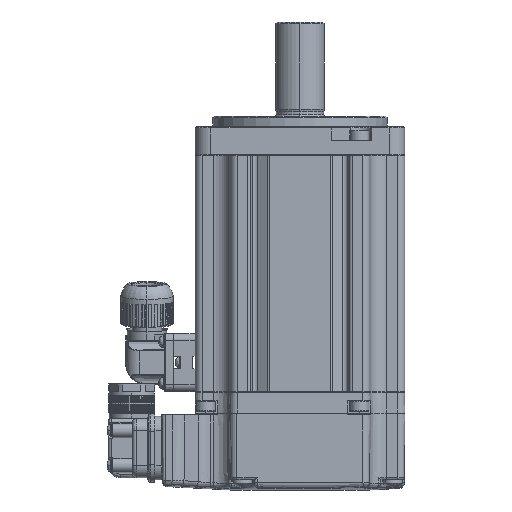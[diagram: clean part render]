
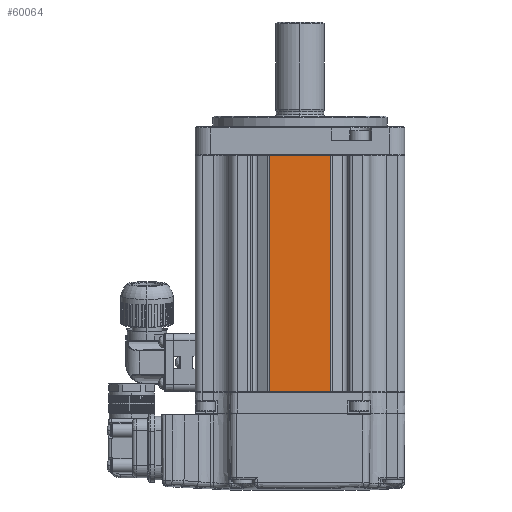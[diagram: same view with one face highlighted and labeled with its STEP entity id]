
A CAD part, front view. The second image highlights one B-rep face of the part: STEP entity #60064.
In plain terms, the highlighted planar face has unit normal (0, -1, 0).
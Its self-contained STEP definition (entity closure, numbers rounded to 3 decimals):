
#627 = VERTEX_POINT ( 'NONE', #64280 ) ;
#4433 = LINE ( 'NONE', #85483, #75198 ) ;
#4585 = CARTESIAN_POINT ( 'NONE',  ( -166.455, 159.877, 70.125 ) ) ;
#5967 = VERTEX_POINT ( 'NONE', #28250 ) ;
#11298 = DIRECTION ( 'NONE',  ( 1., 0., 0. ) ) ;
#14352 = CARTESIAN_POINT ( 'NONE',  ( -137.703, 159.877, 69.175 ) ) ;
#21261 = DIRECTION ( 'NONE',  ( 0., 0., -1. ) ) ;
#21818 = VERTEX_POINT ( 'NONE', #4585 ) ;
#23789 = ORIENTED_EDGE ( 'NONE', *, *, #58904, .T. ) ;
#24782 = CARTESIAN_POINT ( 'NONE',  ( -148.951, 159.877, 70.125 ) ) ;
#24952 = CARTESIAN_POINT ( 'NONE',  ( -148.951, 159.877, 70.125 ) ) ;
#25747 = VERTEX_POINT ( 'NONE', #24952 ) ;
#27838 = PLANE ( 'NONE',  #85032 ) ;
#28250 = CARTESIAN_POINT ( 'NONE',  ( -166.455, 159.877, 137.725 ) ) ;
#31852 = CARTESIAN_POINT ( 'NONE',  ( -148.951, 159.877, 69.175 ) ) ;
#38530 = LINE ( 'NONE', #24782, #72866 ) ;
#39339 = ORIENTED_EDGE ( 'NONE', *, *, #73145, .T. ) ;
#40109 = EDGE_LOOP ( 'NONE', ( #88465, #23789, #47886, #39339 ) ) ;
#44837 = EDGE_CURVE ( 'NONE', #25747, #627, #66539, .T. ) ;
#46108 = VECTOR ( 'NONE', #79768, 1000. ) ;
#47886 = ORIENTED_EDGE ( 'NONE', *, *, #44837, .T. ) ;
#57506 = FACE_OUTER_BOUND ( 'NONE', #40109, .T. ) ;
#58904 = EDGE_CURVE ( 'NONE', #21818, #25747, #38530, .T. ) ;
#60064 = ADVANCED_FACE ( 'NONE', ( #57506 ), #27838, .F. ) ;
#60631 = EDGE_CURVE ( 'NONE', #5967, #21818, #66012, .T. ) ;
#62275 = DIRECTION ( 'NONE',  ( 0., 1., 0. ) ) ;
#64280 = CARTESIAN_POINT ( 'NONE',  ( -148.951, 159.877, 137.725 ) ) ;
#66012 = LINE ( 'NONE', #75375, #82064 ) ;
#66539 = LINE ( 'NONE', #31852, #46108 ) ;
#71970 = DIRECTION ( 'NONE',  ( -1., 0., 0. ) ) ;
#72866 = VECTOR ( 'NONE', #11298, 1000. ) ;
#73145 = EDGE_CURVE ( 'NONE', #627, #5967, #4433, .T. ) ;
#75198 = VECTOR ( 'NONE', #71970, 1000. ) ;
#75375 = CARTESIAN_POINT ( 'NONE',  ( -166.455, 159.877, 69.175 ) ) ;
#79768 = DIRECTION ( 'NONE',  ( 0., 0., 1. ) ) ;
#82064 = VECTOR ( 'NONE', #82284, 1000. ) ;
#82284 = DIRECTION ( 'NONE',  ( 0., 0., -1. ) ) ;
#85032 = AXIS2_PLACEMENT_3D ( 'NONE', #14352, #62275, #21261 ) ;
#85483 = CARTESIAN_POINT ( 'NONE',  ( -166.455, 159.877, 137.725 ) ) ;
#88465 = ORIENTED_EDGE ( 'NONE', *, *, #60631, .T. ) ;
